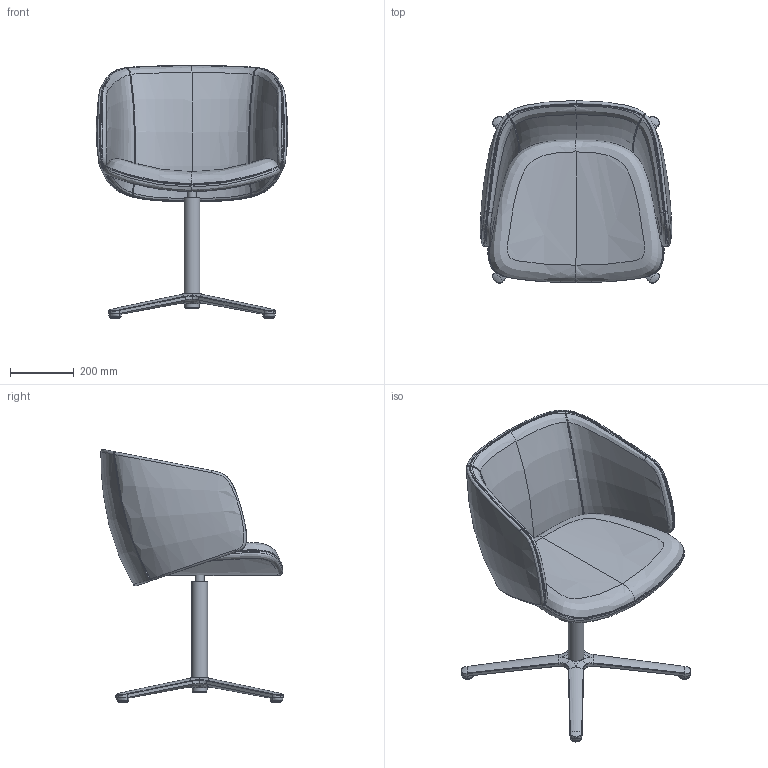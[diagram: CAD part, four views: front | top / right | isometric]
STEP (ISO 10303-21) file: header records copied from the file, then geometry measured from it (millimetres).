
FILE_DESCRIPTION(/* description */ (''),/* implementation_level */ '2;1');
FILE_NAME(/* name */ 'WINX WI 880_01',/* time_stamp */ '2018-09-02T21:12:02+02:00',/* author */ (''),/* organization */ (''),/* preprocessor_version */ 'ST-DEVELOPER v16.5',/* originating_system */ '',/* authorisation */ '');
FILE_SCHEMA (('AUTOMOTIVE_DESIGN'));
Length unit declared in the file: millimetre
Products named in the file (1): Document
Bounding box: 600.84 x 571.51 x 792.92 mm (x, y, z)
Volume: 679742.6 mm3; surface area: 1593290.9 mm2
Topology: 1 solids, 15 shells, 234 faces, 541 edges, 316 vertices
Faces by surface type: bspline 212, plane 22
Entity records: 33375 total; most frequent: CARTESIAN_POINT 30228, ORIENTED_EDGE 986, EDGE_CURVE 530, B_SPLINE_CURVE_WITH_KNOTS 317, VERTEX_POINT 310, ADVANCED_FACE 234, FACE_OUTER_BOUND 234, EDGE_LOOP 234
